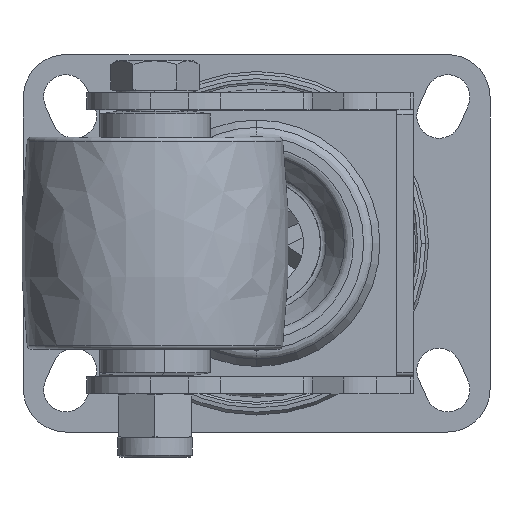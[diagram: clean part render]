
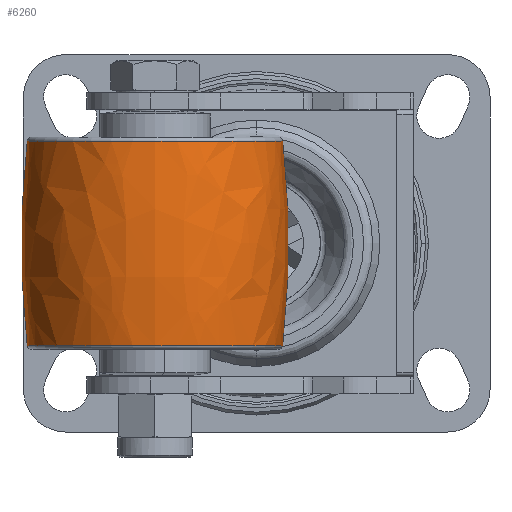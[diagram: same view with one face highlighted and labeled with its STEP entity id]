
A CAD part, front view. The second image highlights one B-rep face of the part: STEP entity #6260.
In plain terms, the highlighted free-form (B-spline) face has degree [3, 3] with [7, 4] control points.
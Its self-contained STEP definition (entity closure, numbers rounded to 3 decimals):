
#5799=CARTESIAN_POINT('',(24.114,0.,0.));
#5800=DIRECTION('',(-1.,0.,0.));
#5801=DIRECTION('',(0.,0.,-1.));
#5802=AXIS2_PLACEMENT_3D('',#5799,#5800,#5801);
#5804=CARTESIAN_POINT('',(0.,0.,180.));
#5805=DIRECTION('',(0.,1.,0.));
#5806=DIRECTION('',(0.114,0.,-0.993));
#5807=AXIS2_PLACEMENT_3D('',#5804,#5805,#5806);
#5809=CARTESIAN_POINT('',(-24.114,0.,0.));
#5810=DIRECTION('',(-1.,0.,0.));
#5811=DIRECTION('',(0.,0.,-1.));
#5812=AXIS2_PLACEMENT_3D('',#5809,#5810,#5811);
#5814=CARTESIAN_POINT('',(0.,0.,-180.));
#5815=DIRECTION('',(0.,1.,0.));
#5816=DIRECTION('',(-0.114,0.,0.993));
#5817=AXIS2_PLACEMENT_3D('',#5814,#5815,#5816);
#5896=CARTESIAN_POINT('',(24.114,0.,30.121));
#5897=CARTESIAN_POINT('',(24.114,0.,-30.121));
#5898=VERTEX_POINT('',#5896);
#5899=VERTEX_POINT('',#5897);
#5908=CARTESIAN_POINT('',(-24.114,0.,30.121));
#5909=CARTESIAN_POINT('',(-24.114,0.,-30.121));
#5910=VERTEX_POINT('',#5908);
#5911=VERTEX_POINT('',#5909);
#6222=CARTESIAN_POINT('',(25.074,1.884,-29.949));
#6223=CARTESIAN_POINT('',(8.398,2.009,-31.936));
#6224=CARTESIAN_POINT('',(-8.398,2.009,
-31.936));
#6225=CARTESIAN_POINT('',(-25.074,1.884,
-29.949));
#6226=CARTESIAN_POINT('',(25.074,-16.546,
-31.109));
#6227=CARTESIAN_POINT('',(8.398,-17.644,
-33.173));
#6228=CARTESIAN_POINT('',(-8.398,-17.644,
-33.173));
#6229=CARTESIAN_POINT('',(-25.074,-16.546,
-31.109));
#6230=CARTESIAN_POINT('',(25.074,-30.008,
-18.467));
#6231=CARTESIAN_POINT('',(8.398,-32.,
-19.692));
#6232=CARTESIAN_POINT('',(-8.398,-32.,
-19.692));
#6233=CARTESIAN_POINT('',(-25.074,-30.008,
-18.467));
#6234=CARTESIAN_POINT('',(25.074,-30.008,
0.));
#6235=CARTESIAN_POINT('',(8.398,-32.,
0.));
#6236=CARTESIAN_POINT('',(-8.398,-32.,
0.));
#6237=CARTESIAN_POINT('',(-25.074,-30.008,
0.));
#6238=CARTESIAN_POINT('',(25.074,-30.008,18.467));
#6239=CARTESIAN_POINT('',(8.398,-32.,19.692));
#6240=CARTESIAN_POINT('',(-8.398,-32.,
19.692));
#6241=CARTESIAN_POINT('',(-25.074,-30.008,
18.467));
#6242=CARTESIAN_POINT('',(25.074,-16.546,31.109));
#6243=CARTESIAN_POINT('',(8.398,-17.644,33.173));
#6244=CARTESIAN_POINT('',(-8.398,-17.644,
33.173));
#6245=CARTESIAN_POINT('',(-25.074,-16.546,
31.109));
#6246=CARTESIAN_POINT('',(25.074,1.884,29.949));
#6247=CARTESIAN_POINT('',(8.398,2.009,31.936));
#6248=CARTESIAN_POINT('',(-8.398,2.009,31.936));
#6249=CARTESIAN_POINT('',(-25.074,1.884,29.949));
#6250=(BOUNDED_SURFACE()B_SPLINE_SURFACE(3,3,((#6222,#6223,#6224,#6225),(#6226,
#6227,#6228,#6229),(#6230,#6231,#6232,#6233),(#6234,#6235,#6236,#6237),(#6238,
#6239,#6240,#6241),(#6242,#6243,#6244,#6245),(#6246,#6247,#6248,#6249)),
.UNSPECIFIED.,.F.,.F.,.F.)B_SPLINE_SURFACE_WITH_KNOTS((4,3,4),(4,4),(0.,1.,
2.),(0.,1.),.UNSPECIFIED.)GEOMETRIC_REPRESENTATION_ITEM()RATIONAL_B_SPLINE_SURFACE(((1.191,1.186,1.186,1.191),(
0.941,0.936,0.936,0.941),(
0.941,0.936,0.936,0.941),(
1.191,1.186,1.186,1.191),(
0.941,0.936,0.936,0.941),(
0.941,0.936,0.936,0.941),(
1.191,1.186,1.186,1.191)))REPRESENTATION_ITEM('')SURFACE());
#6252=ORIENTED_EDGE('',*,*,#6251,.F.);
#6254=ORIENTED_EDGE('',*,*,#6253,.T.);
#6255=ORIENTED_EDGE('',*,*,#6216,.T.);
#6257=ORIENTED_EDGE('',*,*,#6256,.T.);
#6258=EDGE_LOOP('',(#6252,#6254,#6255,#6257));
#6259=FACE_OUTER_BOUND('',#6258,.F.);
#5803=CIRCLE('',#5802,30.121);
#5808=CIRCLE('',#5807,211.5);
#5813=CIRCLE('',#5812,30.121);
#5818=CIRCLE('',#5817,211.5);
#6216=EDGE_CURVE('',#5911,#5910,#5813,.T.);
#6251=EDGE_CURVE('',#5899,#5898,#5803,.T.);
#6253=EDGE_CURVE('',#5899,#5911,#5808,.T.);
#6256=EDGE_CURVE('',#5910,#5898,#5818,.T.);
#6260=ADVANCED_FACE('',(#6259),#6250,.T.);
